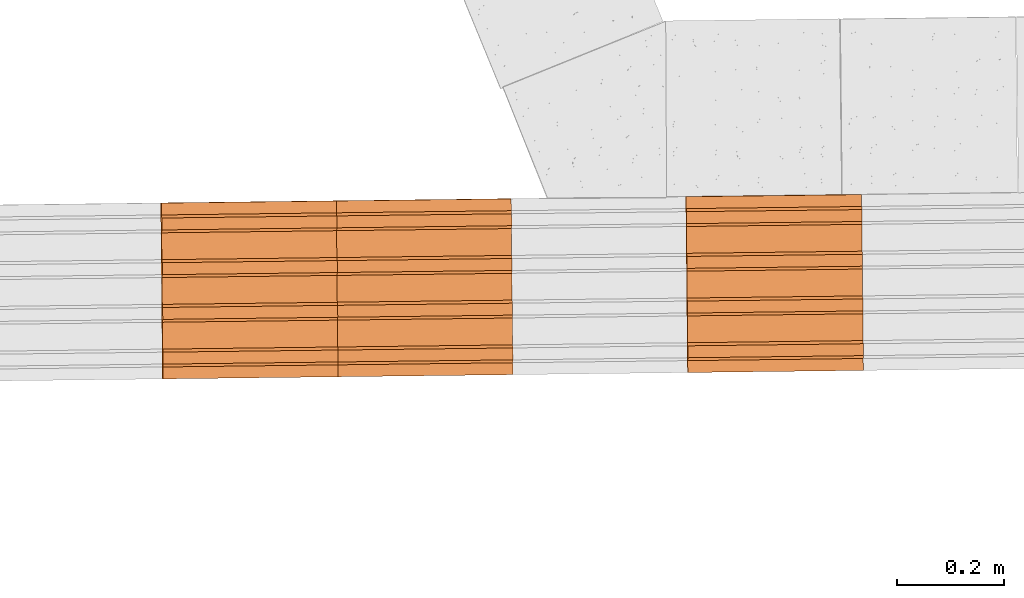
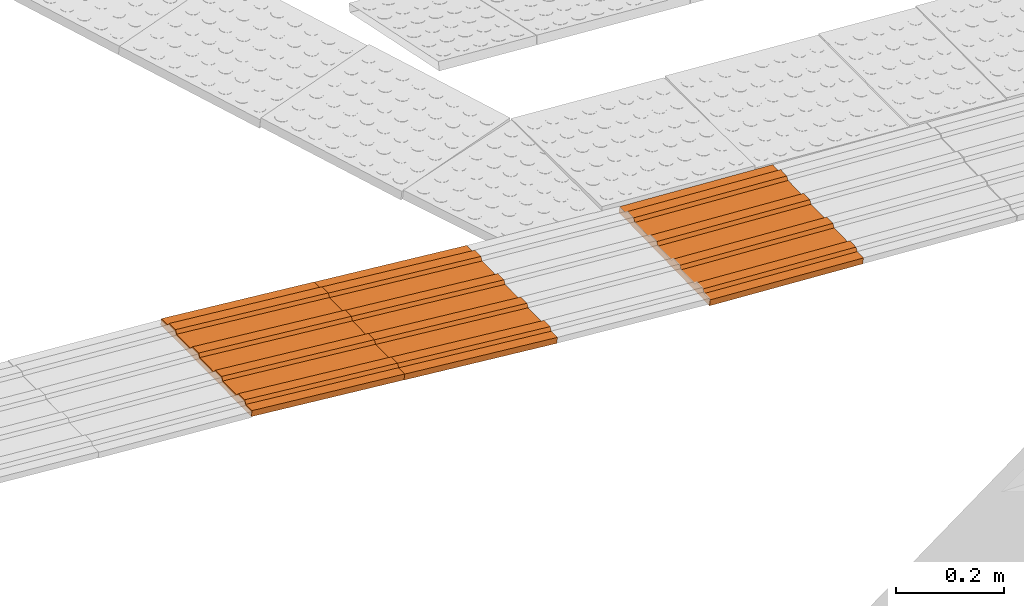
# One storey, part 179 of 237: 3 proxies.
"""IFC2X3 building model written with IfcOpenShell, lengths in millimetres."""

from ifc_helpers import new_model, entity, si_unit, converted_unit, derived_unit, money_unit, direction, frame, origin_with_axes, place, context, subcontext, project, spatial, open_shell, surface_model, source, transform, mapped, type_object, element, save


model = new_model("IFC2X3")

# Units and contexts
model_context = context("Model", 3, precision=0.01, world=origin_with_axes(), true_north=direction((0.0, 1.0)))
body_context = subcontext(model_context, "Body", "Model", "MODEL_VIEW")
ifc_project = project(units=[si_unit("LENGTHUNIT", "METRE", prefix="MILLI"), si_unit("AREAUNIT", "SQUARE_METRE"), si_unit("VOLUMEUNIT", "CUBIC_METRE"), converted_unit("PLANEANGLEUNIT", "DEGREE", entity("IfcPlaneAngleMeasure", 0.0174532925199), si_unit("PLANEANGLEUNIT", "RADIAN"), dimensions=[0, 0, 0, 0, 0, 0, 0]), money_unit("USD"), converted_unit("TIMEUNIT", "Year", entity("IfcTimeMeasure", 31556926.0), si_unit("TIMEUNIT", "SECOND"), dimensions=[0, 0, 1, 0, 0, 0, 0]), si_unit("MASSUNIT", "GRAM", prefix="KILO"), si_unit("THERMODYNAMICTEMPERATUREUNIT", "DEGREE_CELSIUS"), si_unit("LUMINOUSINTENSITYUNIT", "LUMEN"), si_unit("ENERGYUNIT", "JOULE", prefix="MEGA"), derived_unit("THERMALCONDUCTANCEUNIT", [(si_unit("POWERUNIT", "WATT"), 1), (si_unit("LENGTHUNIT", "METRE"), -1), (si_unit("THERMODYNAMICTEMPERATUREUNIT", "KELVIN"), -1)]), derived_unit("SPECIFICHEATCAPACITYUNIT", [(si_unit("ENERGYUNIT", "JOULE"), 1), (si_unit("MASSUNIT", "GRAM", prefix="KILO"), -1), (si_unit("THERMODYNAMICTEMPERATUREUNIT", "KELVIN"), -1)]), derived_unit("MASSDENSITYUNIT", [(si_unit("MASSUNIT", "GRAM", prefix="KILO"), 1), (si_unit("VOLUMEUNIT", "CUBIC_METRE"), -1)])], contexts=[model_context])

# Site, building, storey
site_placement = place(None, origin_with_axes())
site = spatial("IfcSite", under=ifc_project, at=site_placement, Name="Local", CompositionType="ELEMENT")
building_placement = place(site_placement, origin_with_axes())
building = spatial("IfcBuilding", under=site, at=building_placement, Name="Construção", CompositionType="ELEMENT")
storey_placement = place(building_placement, origin_with_axes())
storey = spatial("IfcBuildingStorey", under=building, at=storey_placement, Name="Pavimento Térreo", CompositionType="ELEMENT", Elevation=0.0)

# Proxies
building_element_proxy_type = type_object("IfcBuildingElementProxyType", Name="Piso Direcional 27", PredefinedType="NOTDEFINED")
shared_shape_1 = source(origin_with_axes(), body_context, "Body", "SurfaceModel", [
    surface_model("IfcShellBasedSurfaceModel", [(-0.395892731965, -47.0888435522, 5.66152983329), (328.800243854, -47.0888435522, 28.6811661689), (328.349100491, -41.2663671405, 35.1328168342), (-0.847036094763, -41.2663671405, 12.1131804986)], [open_shell([[[0, 1, 2, 3]]])]),
    surface_model("IfcShellBasedSurfaceModel", [(329.471050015, -153.76061908, 19.08819113), (330.274423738, 176.038353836, 7.59941164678), (329.344904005, 176.503680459, 20.8921631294), (329.290437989, 154.144428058, 21.6710634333), (328.812061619, 148.787278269, 28.5121642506), (328.757595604, 126.428025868, 29.2910645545), (329.208738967, 120.605549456, 22.8394138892), (329.086190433, 70.2972315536, 24.5919395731), (328.607814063, 64.9400817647, 31.4330403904), (328.553348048, 42.5808293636, 32.2119406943), (329.00449141, 36.758352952, 25.760290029), (328.881942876, -13.5499649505, 27.5128157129), (328.403566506, -18.9071147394, 34.3539165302), (328.349100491, -41.2663671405, 35.1328168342), (328.800243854, -47.0888435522, 28.6811661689), (328.67769532, -97.3971614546, 30.4336918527), (328.19931895, -102.754311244, 37.27479267), (328.144852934, -125.113563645, 38.053692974), (328.595996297, -130.936040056, 31.6020423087), (328.541530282, -153.295292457, 32.3809426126)], [open_shell([[[0, 1, 2, 3, 4, 5, 6, 7, 8, 9, 10, 11, 12, 13, 14, 15, 16, 17, 18, 19]]])]),
    surface_model("IfcShellBasedSurfaceModel", [(-0.792570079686, -18.9071147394, 11.3342801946), (328.403566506, -18.9071147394, 34.3539165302), (328.881942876, -13.5499649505, 27.5128157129), (-0.31419370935, -13.5499649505, 4.49317937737)], [open_shell([[[0, 1, 2, 3]]])]),
    surface_model("IfcShellBasedSurfaceModel", [(-0.996817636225, -102.754311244, 14.2551563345), (328.19931895, -102.754311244, 37.27479267), (328.67769532, -97.3971614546, 30.4336918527), (-0.518441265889, -97.3971614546, 7.41405551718)], [open_shell([[[0, 1, 2, 3]]])]),
    surface_model("IfcShellBasedSurfaceModel", [(-0.588322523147, 64.9400817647, 8.41340405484), (328.607814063, 64.9400817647, 31.4330403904), (329.086190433, 70.2972315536, 24.5919395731), (-0.109946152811, 70.2972315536, 1.57230323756)], [open_shell([[[0, 1, 2, 3]]])]),
    surface_model("IfcShellBasedSurfaceModel", [(-0.191645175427, 36.758352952, 2.74065369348), (329.00449141, 36.758352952, 25.760290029), (328.553348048, 42.5808293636, 32.2119406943), (-0.642788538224, 42.5808293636, 9.19230435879)], [open_shell([[[0, 1, 2, 3]]])]),
    surface_model("IfcShellBasedSurfaceModel", [(-0.600140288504, -130.936040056, 8.5824059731), (328.595996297, -130.936040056, 31.6020423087), (328.144852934, -125.113563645, 38.053692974), (-1.0512836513, -125.113563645, 15.0340566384)], [open_shell([[[0, 1, 2, 3]]])]),
    surface_model("IfcShellBasedSurfaceModel", [(0.148767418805, 176.503680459, -2.1274732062), (0.0943014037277, 154.144428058, -1.34857290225), (329.290437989, 154.144428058, 21.6710634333), (329.344904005, 176.503680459, 20.8921631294)], [open_shell([[[0, 1, 2, 3]]])]),
    surface_model("IfcShellBasedSurfaceModel", [(0.0126023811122, 120.605549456, -0.180222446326), (329.208738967, 120.605549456, 22.8394138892), (328.757595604, 126.428025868, 29.2910645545), (-0.438540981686, 126.428025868, 6.27142821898)], [open_shell([[[0, 1, 2, 3]]])]),
    surface_model("IfcShellBasedSurfaceModel", [(-0.384074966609, 148.787278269, 5.49252791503), (328.812061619, 148.787278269, 28.5121642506), (329.290437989, 154.144428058, 21.6710634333), (0.0943014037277, 154.144428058, -1.34857290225)], [open_shell([[[0, 1, 2, 3]]])]),
    surface_model("IfcShellBasedSurfaceModel", [(-0.191645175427, 36.758352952, 2.74065369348), (-0.31419370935, -13.5499649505, 4.49317937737), (328.881942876, -13.5499649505, 27.5128157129), (329.00449141, 36.758352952, 25.760290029)], [open_shell([[[0, 1, 2, 3]]])]),
    surface_model("IfcShellBasedSurfaceModel", [(0.0126023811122, 120.605549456, -0.180222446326), (-0.109946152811, 70.2972315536, 1.57230323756), (329.086190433, 70.2972315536, 24.5919395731), (329.208738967, 120.605549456, 22.8394138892)], [open_shell([[[0, 1, 2, 3]]])]),
    surface_model("IfcShellBasedSurfaceModel", [(-0.384074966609, 148.787278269, 5.49252791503), (-0.438540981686, 126.428025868, 6.27142821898), (328.757595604, 126.428025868, 29.2910645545), (328.812061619, 148.787278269, 28.5121642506)], [open_shell([[[0, 1, 2, 3]]])]),
    surface_model("IfcShellBasedSurfaceModel", [(0.0126023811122, 120.605549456, -0.180222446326), (-0.438540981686, 126.428025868, 6.27142821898), (-0.384074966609, 148.787278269, 5.49252791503), (0.0943014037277, 154.144428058, -1.34857290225), (0.148767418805, 176.503680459, -2.1274732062), (1.07828715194, 176.038353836, -15.4202246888), (0.274913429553, -153.76061908, -3.93144520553), (-0.654606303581, -153.295292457, 9.36130627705), (-0.600140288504, -130.936040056, 8.5824059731), (-1.0512836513, -125.113563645, 15.0340566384), (-0.996817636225, -102.754311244, 14.2551563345), (-0.518441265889, -97.3971614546, 7.41405551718), (-0.395892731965, -47.0888435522, 5.66152983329), (-0.847036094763, -41.2663671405, 12.1131804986), (-0.792570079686, -18.9071147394, 11.3342801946), (-0.31419370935, -13.5499649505, 4.49317937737), (-0.191645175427, 36.758352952, 2.74065369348), (-0.642788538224, 42.5808293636, 9.19230435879), (-0.588322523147, 64.9400817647, 8.41340405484), (-0.109946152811, 70.2972315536, 1.57230323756)], [open_shell([[[0, 1, 2, 3, 4, 5, 6, 7, 8, 9, 10, 11, 12, 13, 14, 15, 16, 17, 18, 19]]])]),
    surface_model("IfcShellBasedSurfaceModel", [(328.349100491, -41.2663671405, 35.1328168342), (328.403566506, -18.9071147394, 34.3539165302), (-0.792570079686, -18.9071147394, 11.3342801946), (-0.847036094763, -41.2663671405, 12.1131804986)], [open_shell([[[0, 1, 2, 3]]])]),
    surface_model("IfcShellBasedSurfaceModel", [(-0.395892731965, -47.0888435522, 5.66152983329), (-0.518441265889, -97.3971614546, 7.41405551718), (328.67769532, -97.3971614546, 30.4336918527), (328.800243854, -47.0888435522, 28.6811661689)], [open_shell([[[0, 1, 2, 3]]])]),
    surface_model("IfcShellBasedSurfaceModel", [(328.553348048, 42.5808293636, 32.2119406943), (328.607814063, 64.9400817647, 31.4330403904), (-0.588322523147, 64.9400817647, 8.41340405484), (-0.642788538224, 42.5808293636, 9.19230435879)], [open_shell([[[0, 1, 2, 3]]])]),
    surface_model("IfcShellBasedSurfaceModel", [(328.144852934, -125.113563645, 38.053692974), (328.19931895, -102.754311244, 37.27479267), (-0.996817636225, -102.754311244, 14.2551563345), (-1.0512836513, -125.113563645, 15.0340566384)], [open_shell([[[0, 1, 2, 3]]])]),
    surface_model("IfcShellBasedSurfaceModel", [(330.274423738, 176.038353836, 7.59941164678), (1.07828715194, 176.038353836, -15.4202246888), (0.148767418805, 176.503680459, -2.1274732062), (329.344904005, 176.503680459, 20.8921631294)], [open_shell([[[0, 1, 2, 3]]])]),
    surface_model("IfcShellBasedSurfaceModel", [(329.471050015, -153.76061908, 19.08819113), (0.274913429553, -153.76061908, -3.93144520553), (1.07828715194, 176.038353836, -15.4202246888), (330.274423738, 176.038353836, 7.59941164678)], [open_shell([[[0, 1, 2, 3]]])]),
    surface_model("IfcShellBasedSurfaceModel", [(328.541530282, -153.295292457, 32.3809426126), (328.595996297, -130.936040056, 31.6020423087), (-0.600140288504, -130.936040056, 8.5824059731), (-0.654606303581, -153.295292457, 9.36130627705)], [open_shell([[[0, 1, 2, 3]]])]),
    surface_model("IfcShellBasedSurfaceModel", [(0.274913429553, -153.76061908, -3.93144520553), (329.471050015, -153.76061908, 19.08819113), (328.541530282, -153.295292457, 32.3809426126), (-0.654606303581, -153.295292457, 9.36130627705)], [open_shell([[[0, 1, 2, 3]]])]),
])
proxy_placement = place(storey_placement, frame((52828.2915795, 36689.4907298, -1718.64695371), z_axis=(0.0, 0.0, 1.0), x_axis=(-0.999926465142, -0.012127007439, 0.0)))
element("IfcBuildingElementProxy", 1, at=proxy_placement, inside=storey, type_object=building_element_proxy_type, Name="Objeto-0055", context=body_context, shape_type="MappedRepresentation", body=[
    mapped(shared_shape_1, transform((0.0, 0.0, 0.0))),
])
shared_shape_2 = source(origin_with_axes(), body_context, "Body", "SurfaceModel", [
    surface_model("IfcShellBasedSurfaceModel", [(-0.550260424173, -47.1365767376, 5.23537822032), (327.641965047, -47.1365767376, 39.7297710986), (326.960651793, -41.3707600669, 46.2120337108), (-1.23157367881, -41.3707600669, 11.7176408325)], [open_shell([[[0, 1, 2, 3]]])]),
    surface_model("IfcShellBasedSurfaceModel", [(328.744417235, -153.720372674, 29.2406391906), (329.647375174, 176.166544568, 20.6495682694), (328.254139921, 176.515570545, 33.9053162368), (328.192922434, 154.150355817, 34.487761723), (327.481000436, 148.733565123, 41.2612470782), (327.419782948, 126.368350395, 41.8436925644), (328.101096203, 120.602533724, 35.3614299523), (327.963356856, 70.2808005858, 36.6719322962), (327.251434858, 64.8640098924, 43.4454176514), (327.190217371, 42.4987951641, 44.0278631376), (327.871530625, 36.7329784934, 37.5456005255), (327.733791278, -13.5887546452, 38.8561028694), (327.02186928, -19.0055453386, 45.6295882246), (326.960651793, -41.3707600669, 46.2120337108), (327.641965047, -47.1365767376, 39.7297710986), (327.504225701, -97.4583098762, 41.0402734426), (326.792303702, -102.87510057, 47.8137587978), (326.731086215, -125.240315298, 48.396204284), (327.41239947, -131.006131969, 41.9139416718), (327.351181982, -153.371346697, 42.496387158)], [open_shell([[[0, 1, 2, 3, 4, 5, 6, 7, 8, 9, 10, 11, 12, 13, 14, 15, 16, 17, 18, 19]]])]),
    surface_model("IfcShellBasedSurfaceModel", [(-1.1703561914, -19.0055453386, 11.1351953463), (327.02186928, -19.0055453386, 45.6295882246), (327.733791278, -13.5887546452, 38.8561028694), (-0.458434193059, -13.5887546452, 4.36170999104)], [open_shell([[[0, 1, 2, 3]]])]),
    surface_model("IfcShellBasedSurfaceModel", [(-1.39992176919, -102.87510057, 13.3193659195), (326.792303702, -102.87510057, 47.8137587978), (327.504225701, -97.4583098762, 41.0402734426), (-0.687999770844, -97.4583098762, 6.54588056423)], [open_shell([[[0, 1, 2, 3]]])]),
    surface_model("IfcShellBasedSurfaceModel", [(-0.94079061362, 64.8640098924, 8.95102477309), (327.251434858, 64.8640098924, 43.4454176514), (327.963356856, 70.2808005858, 36.6719322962), (-0.228868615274, 70.2808005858, 2.17753941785)], [open_shell([[[0, 1, 2, 3]]])]),
    surface_model("IfcShellBasedSurfaceModel", [(-0.320694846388, 36.7329784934, 3.05120764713), (327.871530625, 36.7329784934, 37.5456005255), (327.190217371, 42.4987951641, 44.0278631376), (-1.00200810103, 42.4987951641, 9.53347025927)], [open_shell([[[0, 1, 2, 3]]])]),
    surface_model("IfcShellBasedSurfaceModel", [(-0.779826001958, -131.006131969, 7.41954879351), (327.41239947, -131.006131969, 41.9139416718), (326.731086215, -125.240315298, 48.396204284), (-1.4611392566, -125.240315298, 13.9018114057)], [open_shell([[[0, 1, 2, 3]]])]),
    surface_model("IfcShellBasedSurfaceModel", [(0.06191444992, 176.515570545, -0.589076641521), (0.000696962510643, 154.150355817, -0.00663115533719), (328.192922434, 154.150355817, 34.487761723), (328.254139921, 176.515570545, 33.9053162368)], [open_shell([[[0, 1, 2, 3]]])]),
    surface_model("IfcShellBasedSurfaceModel", [(-0.0911292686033, 120.602533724, 0.867037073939), (328.101096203, 120.602533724, 35.3614299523), (327.419782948, 126.368350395, 41.8436925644), (-0.772442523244, 126.368350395, 7.34929968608)], [open_shell([[[0, 1, 2, 3]]])]),
    surface_model("IfcShellBasedSurfaceModel", [(-0.711225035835, 148.733565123, 6.7668541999), (327.481000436, 148.733565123, 41.2612470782), (328.192922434, 154.150355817, 34.487761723), (0.000696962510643, 154.150355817, -0.00663115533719)], [open_shell([[[0, 1, 2, 3]]])]),
    surface_model("IfcShellBasedSurfaceModel", [(-0.320694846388, 36.7329784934, 3.05120764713), (-0.458434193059, -13.5887546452, 4.36170999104), (327.733791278, -13.5887546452, 38.8561028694), (327.871530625, 36.7329784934, 37.5456005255)], [open_shell([[[0, 1, 2, 3]]])]),
    surface_model("IfcShellBasedSurfaceModel", [(-0.0911292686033, 120.602533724, 0.867037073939), (-0.228868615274, 70.2808005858, 2.17753941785), (327.963356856, 70.2808005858, 36.6719322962), (328.101096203, 120.602533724, 35.3614299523)], [open_shell([[[0, 1, 2, 3]]])]),
    surface_model("IfcShellBasedSurfaceModel", [(-0.711225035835, 148.733565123, 6.7668541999), (-0.772442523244, 126.368350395, 7.34929968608), (327.419782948, 126.368350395, 41.8436925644), (327.481000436, 148.733565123, 41.2612470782)], [open_shell([[[0, 1, 2, 3]]])]),
    surface_model("IfcShellBasedSurfaceModel", [(-0.0911292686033, 120.602533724, 0.867037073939), (-0.772442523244, 126.368350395, 7.34929968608), (-0.711225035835, 148.733565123, 6.7668541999), (0.000696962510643, 154.150355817, -0.00663115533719), (0.06191444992, 176.515570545, -0.589076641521), (1.45514970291, 176.166544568, -13.8448246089), (0.552191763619, -153.720372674, -5.25375368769), (-0.841043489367, -153.371346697, 8.00199427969), (-0.779826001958, -131.006131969, 7.41954879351), (-1.4611392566, -125.240315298, 13.9018114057), (-1.39992176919, -102.87510057, 13.3193659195), (-0.687999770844, -97.4583098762, 6.54588056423), (-0.550260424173, -47.1365767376, 5.23537822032), (-1.23157367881, -41.3707600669, 11.7176408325), (-1.1703561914, -19.0055453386, 11.1351953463), (-0.458434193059, -13.5887546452, 4.36170999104), (-0.320694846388, 36.7329784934, 3.05120764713), (-1.00200810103, 42.4987951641, 9.53347025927), (-0.94079061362, 64.8640098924, 8.95102477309), (-0.228868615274, 70.2808005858, 2.17753941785)], [open_shell([[[0, 1, 2, 3, 4, 5, 6, 7, 8, 9, 10, 11, 12, 13, 14, 15, 16, 17, 18, 19]]])]),
    surface_model("IfcShellBasedSurfaceModel", [(326.960651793, -41.3707600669, 46.2120337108), (327.02186928, -19.0055453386, 45.6295882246), (-1.1703561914, -19.0055453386, 11.1351953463), (-1.23157367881, -41.3707600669, 11.7176408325)], [open_shell([[[0, 1, 2, 3]]])]),
    surface_model("IfcShellBasedSurfaceModel", [(-0.550260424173, -47.1365767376, 5.23537822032), (-0.687999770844, -97.4583098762, 6.54588056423), (327.504225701, -97.4583098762, 41.0402734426), (327.641965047, -47.1365767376, 39.7297710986)], [open_shell([[[0, 1, 2, 3]]])]),
    surface_model("IfcShellBasedSurfaceModel", [(327.190217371, 42.4987951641, 44.0278631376), (327.251434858, 64.8640098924, 43.4454176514), (-0.94079061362, 64.8640098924, 8.95102477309), (-1.00200810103, 42.4987951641, 9.53347025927)], [open_shell([[[0, 1, 2, 3]]])]),
    surface_model("IfcShellBasedSurfaceModel", [(326.731086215, -125.240315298, 48.396204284), (326.792303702, -102.87510057, 47.8137587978), (-1.39992176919, -102.87510057, 13.3193659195), (-1.4611392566, -125.240315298, 13.9018114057)], [open_shell([[[0, 1, 2, 3]]])]),
    surface_model("IfcShellBasedSurfaceModel", [(329.647375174, 176.166544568, 20.6495682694), (1.45514970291, 176.166544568, -13.8448246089), (0.06191444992, 176.515570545, -0.589076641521), (328.254139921, 176.515570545, 33.9053162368)], [open_shell([[[0, 1, 2, 3]]])]),
    surface_model("IfcShellBasedSurfaceModel", [(328.744417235, -153.720372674, 29.2406391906), (0.552191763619, -153.720372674, -5.25375368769), (1.45514970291, 176.166544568, -13.8448246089), (329.647375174, 176.166544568, 20.6495682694)], [open_shell([[[0, 1, 2, 3]]])]),
    surface_model("IfcShellBasedSurfaceModel", [(327.351181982, -153.371346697, 42.496387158), (327.41239947, -131.006131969, 41.9139416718), (-0.779826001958, -131.006131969, 7.41954879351), (-0.841043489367, -153.371346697, 8.00199427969)], [open_shell([[[0, 1, 2, 3]]])]),
    surface_model("IfcShellBasedSurfaceModel", [(0.552191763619, -153.720372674, -5.25375368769), (328.744417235, -153.720372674, 29.2406391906), (327.351181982, -153.371346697, 42.496387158), (-0.841043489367, -153.371346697, 8.00199427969)], [open_shell([[[0, 1, 2, 3]]])]),
])
for number, where, z_axis, x_axis, name in (
    (2, (51842.9676891, 36677.5363188, -1629.58091323), (0.0, 0.0, 1.0), (-0.999926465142, -0.012127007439, 0.0), "Objeto-0055"),
    (3, (52170.9537092, 36681.5176062, -1664.44675321), (0.0, 0.0, 1.0), (-0.999926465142, -0.012127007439, 0.0), "Objeto-0055"),
):
    element("IfcBuildingElementProxy", number, at=place(storey_placement, frame(where, z_axis=z_axis, x_axis=x_axis)), inside=storey, type_object=building_element_proxy_type, Name=name, context=body_context, shape_type="MappedRepresentation", body=[
        mapped(shared_shape_2, transform((0.0, 0.0, 0.0))),
    ])

save(model, "model.ifc")
